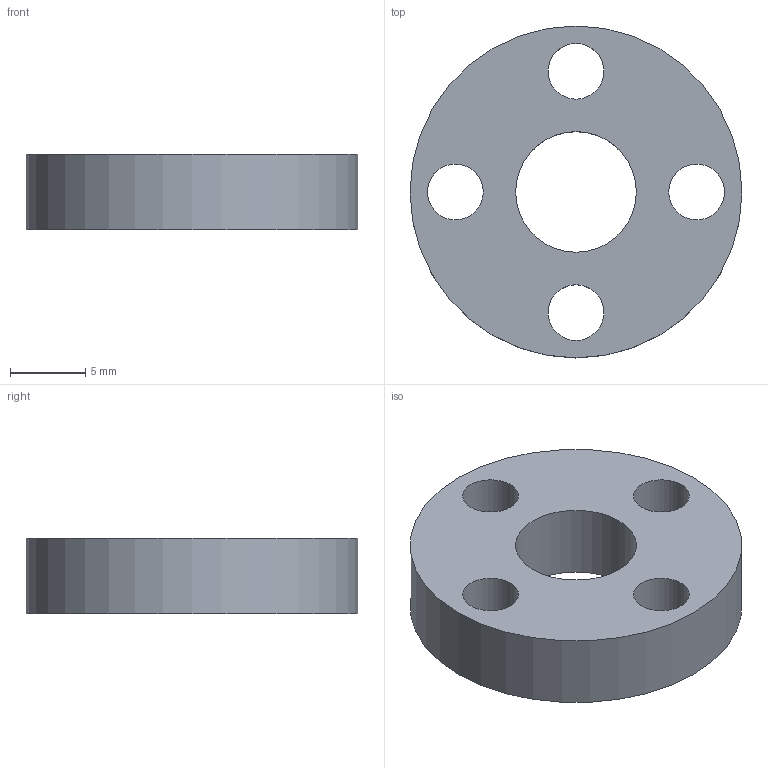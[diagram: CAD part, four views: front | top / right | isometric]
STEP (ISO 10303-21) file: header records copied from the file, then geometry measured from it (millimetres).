
FILE_DESCRIPTION(/* description */ (''),/* implementation_level */ '2;1');
FILE_NAME(/* name */ 'D:\FIRST\FTC KOP 2017\FTC 2017 KOP\Tetrix STEP\Miscellaneous\Tetrix_39251.ipt.step',/* time_stamp */ '2017-01-03T09:05:02-08:00',/* author */ ('Autodesk Inc.'),/* organization */ ('Autodesk Inc.'),/* preprocessor_version */ 'ST-DEVELOPER v16.5',/* originating_system */ 'Autodesk Inventor 2017',/* authorisation */ '');
FILE_SCHEMA (('AUTOMOTIVE_DESIGN { 1 0 10303 214 3 1 1 }'));
Length unit declared in the file: inch
Products named in the file (1): Tetrix_739251
Bounding box: 22 x 22 x 5 mm (x, y, z)
Volume: 1434.3 mm3; surface area: 1277.4 mm2
Topology: 1 solids, 1 shells, 8 faces, 18 edges, 12 vertices
Faces by surface type: cylinder 6, plane 2
Full cylindrical faces by diameter (mm): 3.7 x4, 8 x1, 22 x1
Entity records: 256 total; most frequent: DIRECTION 42, CARTESIAN_POINT 33, EDGE_LOOP 24, ORIENTED_EDGE 24, AXIS2_PLACEMENT_3D 21, FACE_BOUND 16, CIRCLE 12, VERTEX_POINT 12
